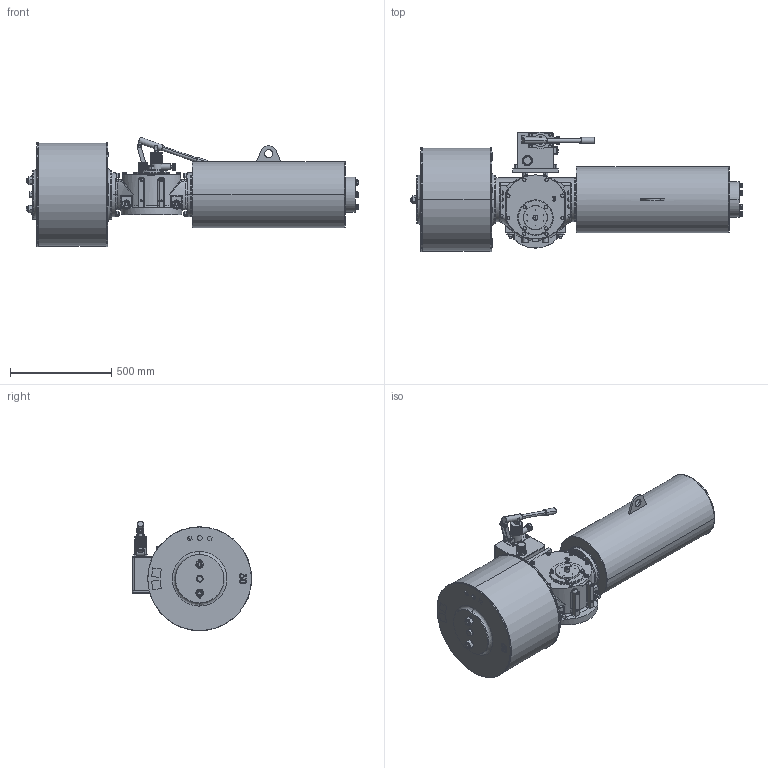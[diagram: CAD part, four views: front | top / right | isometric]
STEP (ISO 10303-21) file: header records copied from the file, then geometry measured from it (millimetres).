
FILE_DESCRIPTION (( 'STEP AP203' ), '1' );
FILE_NAME ('VTS3-500-SR-MH-FC.STEP', '2023-01-01T09:06:39', ( '' ), ( '' ), 'SwSTEP 2.0', 'SolidWorks 2020', '' );
FILE_SCHEMA (( 'CONFIG_CONTROL_DESIGN' ));
Length unit declared in the file: millimetre
Products named in the file (1): VTS3-500-SR-MH-FC
Bounding box: 1641.38 x 589.9 x 541.27 mm (x, y, z)
Volume: 160779963.4 mm3; surface area: 3508298.1 mm2
Topology: 54 solids, 55 shells, 2775 faces, 6864 edges, 4322 vertices
Faces by surface type: plane 1119, cylinder 936, cone 541, bspline 151, torus 28
Entity records: 98933 total; most frequent: CARTESIAN_POINT 33967, DIRECTION 13582, ORIENTED_EDGE 13546, EDGE_CURVE 6773, AXIS2_PLACEMENT_3D 5343, VERTEX_POINT 4322, EDGE_LOOP 3129, LINE 2896
